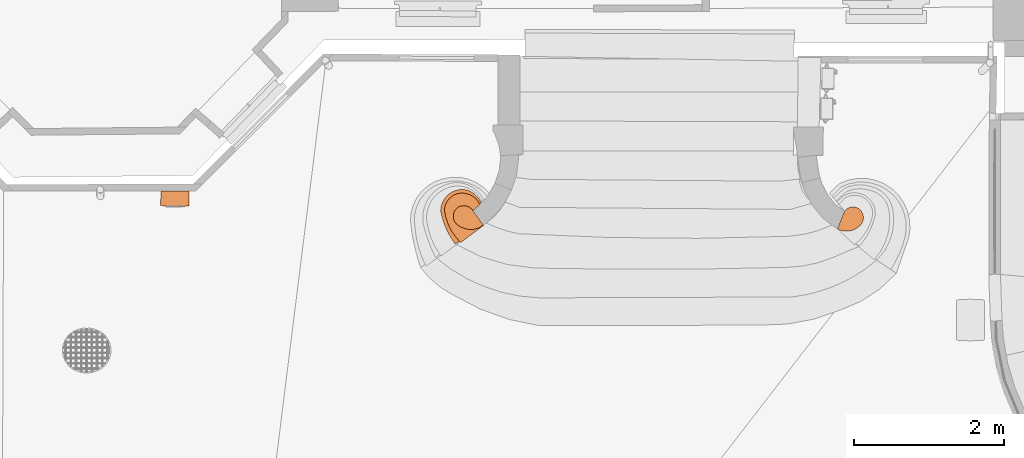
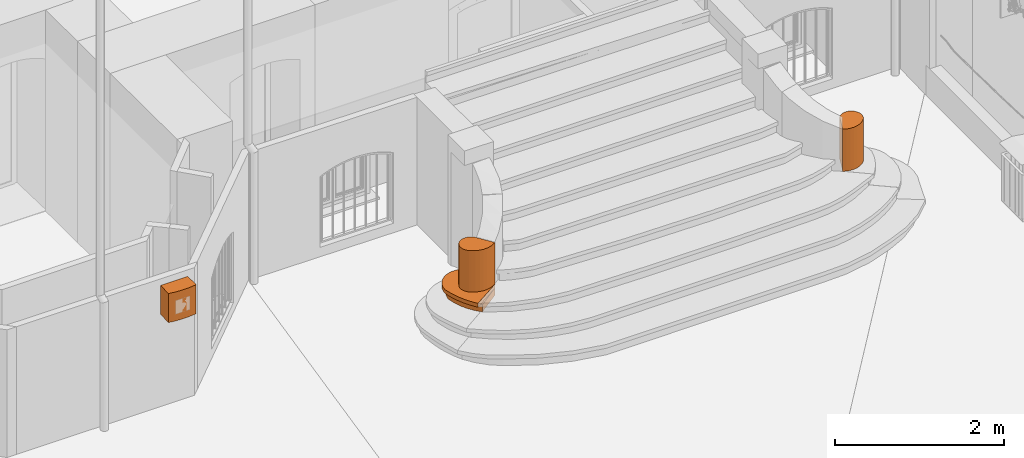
# One storey, part 132 of 133: 5 proxies.
"""IFC2X3 building model written with IfcOpenShell, lengths in centimetres."""

from ifc_helpers import new_model, entity, si_unit, converted_unit, direction, frame, origin, origin_with_axes, place, context, subcontext, project, spatial, faceted_brep, material, element, save


model = new_model("IFC2X3")

# Units and contexts
model_context = context("Model", 3, precision=0.0001, world=origin(), true_north=direction((0.225632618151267, 0.974212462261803, 0.0)))
body_context = subcontext(model_context, "Body", "Model", "MODEL_VIEW")
ifc_project = project(units=[si_unit("LENGTHUNIT", "METRE", prefix="CENTI"), si_unit("AREAUNIT", "SQUARE_METRE", prefix="CENTI"), si_unit("VOLUMEUNIT", "CUBIC_METRE", prefix="CENTI"), converted_unit("PLANEANGLEUNIT", "DEGREE", entity("IfcRatioMeasure", 0.0174532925), si_unit("PLANEANGLEUNIT", "RADIAN"), dimensions=[0, 0, 0, 0, 0, 0, 0])], contexts=[model_context])

# Site, building, storey
site_placement = place(None, origin_with_axes())
site = spatial("IfcSite", under=ifc_project, at=site_placement, Name="Default Site", CompositionType="ELEMENT")
building_placement = place(site_placement, origin_with_axes())
building = spatial("IfcBuilding", under=site, at=building_placement, Name="Default Building", CompositionType="ELEMENT")
storey_placement = place(building_placement, frame((0.0, 0.0, -291.400371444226), z_axis=(0.0, 0.0, 1.0), x_axis=(1.0, 0.0, 0.0)))
storey = spatial("IfcBuildingStorey", under=building, at=storey_placement, Name="Rez-de-Jardin", CompositionType="ELEMENT", Elevation=-291.400371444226)

# Proxies
ifc_material_1 = material(Name="Blanc")
proxy_1_placement = place(storey_placement, frame((-877.527270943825, -1151.41205586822, 240.0), z_axis=(0.0, 0.0, 1.0), x_axis=(1.0, 0.0, 0.0)))
element("IfcBuildingElementProxy", 1, at=proxy_1_placement, inside=storey, material=ifc_material_1, Name="Encombrement 959293", context=body_context, shape_type="Brep", body=[
    faceted_brep([(3.40053489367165e-05, 4.56753491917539e-05, 41.9999999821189), (-0.52277025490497, -19.487907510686, 41.9999999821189), (6.99389997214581, -20.6138154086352, 41.9999999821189), (14.5702702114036, -21.2193985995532, 41.9999999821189), (22.1702915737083, -21.3017960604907, 41.9999999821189), (29.7580105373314, -20.8606263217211, 41.9999999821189), (37.297282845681, -19.8979874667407, 41.9999999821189), (37.2687679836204, 0.0532607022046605, 41.9999999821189), (3.40053489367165e-05, 4.56753491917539e-05, 2.03847912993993e-06), (-0.522695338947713, -19.4879095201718, 2.03847912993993e-06), (-0.522695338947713, -19.4879095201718, 41.9999999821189), (-0.52277025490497, -19.487907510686, 2.03847912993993e-06), (6.99390187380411, -20.6138027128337, 2.03847912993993e-06), (6.99390187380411, -20.6138027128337, 41.9999999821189), (6.99389997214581, -20.6138154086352, 2.03847912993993e-06), (14.5702703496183, -21.2193968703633, 2.03847912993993e-06), (14.5702703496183, -21.2193968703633, 41.9999999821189), (14.5702702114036, -21.2193985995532, 2.03847912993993e-06), (22.170291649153, -21.3017891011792, 2.03847912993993e-06), (22.170291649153, -21.3017891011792, 41.9999999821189), (22.1702915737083, -21.3017960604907, 2.03847912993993e-06), (29.7580093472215, -20.8606058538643, 2.03847912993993e-06), (29.7580093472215, -20.8606058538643, 41.9999999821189), (29.7580105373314, -20.8606263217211, 2.03847912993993e-06), (37.2972788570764, -19.8979562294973, 2.03847912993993e-06), (37.2972788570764, -19.8979562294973, 41.9999999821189), (37.297282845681, -19.8979874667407, 2.03847912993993e-06), (37.2687912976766, 0.0532607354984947, 2.03847912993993e-06), (37.2687912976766, 0.0532607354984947, 41.9999999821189), (37.2687679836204, 0.0532607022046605, 2.03847912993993e-06), (3.40152061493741e-05, 3.87728215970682e-05, 2.03847912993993e-06), (3.40152061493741e-05, 3.87728215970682e-05, 41.9999999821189)], [[[0, 1, 2, 3, 4, 5, 6, 7]], [[8, 9, 10, 0]], [[11, 12, 13, 1]], [[14, 15, 16, 2]], [[17, 18, 19, 3]], [[20, 21, 22, 4]], [[23, 24, 25, 5]], [[26, 27, 28, 6]], [[29, 30, 31, 7]], [[29, 26, 23, 20, 17, 14, 11, 8]]]),
])
proxy_2_placement = place(storey_placement, frame((-446.30067125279, -1197.36928042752, 161.0), z_axis=(0.0, 0.0, 1.0), x_axis=(1.0, 0.0, 0.0)))
element("IfcBuildingElementProxy", 2, at=proxy_2_placement, inside=storey, material=ifc_material_1, Name="Encombrement 345563", context=body_context, shape_type="Brep", body=[
    faceted_brep([(2.16098452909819e-05, -8.9706702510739e-06, 60.0003718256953), (-13.8111852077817, 19.6311860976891, 60.0003718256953), (-15.6282685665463, 21.7656999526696, 60.0003718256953), (-17.8057454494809, 23.5310464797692, 60.0003718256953), (-20.2698968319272, 24.8673349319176, 60.0003718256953), (-22.9372285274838, 25.7294565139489, 60.0003718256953), (-25.7173798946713, 26.0880380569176, 60.0003718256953), (-28.5161755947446, 25.9310632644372, 60.0003718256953), (-31.2387727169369, 25.2638727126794, 60.0003718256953), (-33.7929986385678, 24.1089731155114, 60.0003718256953), (-35.9152577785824, 22.369852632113, 60.0003718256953), (-37.6750729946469, 20.2647119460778, 60.0003718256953), (-39.0104077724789, 17.867842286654, 60.0003718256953), (-39.8742936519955, 15.2636438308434, 60.0003718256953), (-40.2362130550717, 12.5437646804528, 60.0003718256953), (-40.0833867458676, 9.8042398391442, 60.0003718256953), (-39.4212983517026, 7.14158114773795, 60.0003718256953), (-38.2731698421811, 4.64953479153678, 60.0003718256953), (-36.6795323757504, 2.41602954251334, 60.0003718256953), (-34.6965573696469, 0.519648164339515, 60.0003718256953), (-32.3941014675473, -0.972566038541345, 60.0003718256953), (-28.0750535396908, -3.37162914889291, 60.0003718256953), (-23.397853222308, -4.9632162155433, 60.0003718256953), (-18.5119889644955, -5.6965917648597, 60.0003718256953), (-13.5736726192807, -5.54829540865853, 60.0003718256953), (-8.74059423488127, -4.52309551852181, 60.0003718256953), (-4.16734441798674, -2.65379849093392, 60.0003718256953), (2.16098452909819e-05, -8.9706702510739e-06, -1.07288089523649e-07), (-13.8111483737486, 19.6312120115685, -1.07288089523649e-07), (-13.8111483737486, 19.6312120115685, 60.0003718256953), (-13.8111852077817, 19.6311860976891, -1.07288089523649e-07), (-15.6282862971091, 21.7656848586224, -1.07288089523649e-07), (-15.6282862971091, 21.7656848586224, 60.0003718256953), (-15.6282685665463, 21.7656999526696, -1.07288089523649e-07), (-17.8057748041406, 23.5310102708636, -1.07288089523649e-07), (-17.8057748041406, 23.5310102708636, 60.0003718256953), (-17.8057454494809, 23.5310464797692, -1.07288089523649e-07), (-20.2698795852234, 24.8673667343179, -1.07288089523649e-07), (-20.2698795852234, 24.8673667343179, 60.0003718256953), (-20.2698968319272, 24.8673349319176, -1.07288089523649e-07), (-22.9372391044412, 25.72942378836, -1.07288089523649e-07), (-22.9372391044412, 25.72942378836, 60.0003718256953), (-22.9372285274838, 25.7294565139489, -1.07288089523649e-07), (-25.7173730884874, 26.0880908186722, -1.07288089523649e-07), (-25.7173730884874, 26.0880908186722, 60.0003718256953), (-25.7173798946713, 26.0880380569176, -1.07288089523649e-07), (-28.5161761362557, 25.9310729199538, -1.07288089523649e-07), (-28.5161761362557, 25.9310729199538, 60.0003718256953), (-28.5161755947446, 25.9310632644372, -1.07288089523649e-07), (-31.238760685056, 25.263823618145, -1.07288089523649e-07), (-31.238760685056, 25.263823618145, 60.0003718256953), (-31.2387727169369, 25.2638727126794, -1.07288089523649e-07), (-33.7929863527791, 24.1089459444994, -1.07288089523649e-07), (-33.7929863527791, 24.1089459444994, 60.0003718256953), (-33.7929986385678, 24.1089731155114, -1.07288089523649e-07), (-35.9152680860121, 22.3698652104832, -1.07288089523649e-07), (-35.9152680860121, 22.3698652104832, 60.0003718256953), (-35.9152577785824, 22.369852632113, -1.07288089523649e-07), (-37.6750995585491, 20.2647341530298, -1.07288089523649e-07), (-37.6750995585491, 20.2647341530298, 60.0003718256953), (-37.6750729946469, 20.2647119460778, -1.07288089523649e-07), (-39.0104201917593, 17.8678492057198, -1.07288089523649e-07), (-39.0104201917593, 17.8678492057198, 60.0003718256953), (-39.0104077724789, 17.867842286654, -1.07288089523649e-07), (-39.8742576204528, 15.2636318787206, -1.07288089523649e-07), (-39.8742576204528, 15.2636318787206, 60.0003718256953), (-39.8742936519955, 15.2636438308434, -1.07288089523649e-07), (-40.2362125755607, 12.543764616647, -1.07288089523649e-07), (-40.2362125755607, 12.543764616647, 60.0003718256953), (-40.2362130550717, 12.5437646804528, -1.07288089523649e-07), (-40.0834169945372, 9.80423815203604, -1.07288089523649e-07), (-40.0834169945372, 9.80423815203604, 60.0003718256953), (-40.0833867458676, 9.8042398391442, -1.07288089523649e-07), (-39.4212801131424, 7.141585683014, -1.07288089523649e-07), (-39.4212801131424, 7.141585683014, 60.0003718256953), (-39.4212983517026, 7.14158114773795, -1.07288089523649e-07), (-38.2731832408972, 4.64952861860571, -1.07288089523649e-07), (-38.2731832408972, 4.64952861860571, 60.0003718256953), (-38.2731698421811, 4.64953479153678, -1.07288089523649e-07), (-36.6795527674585, 2.41601499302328, -1.07288089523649e-07), (-36.6795527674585, 2.41601499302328, 60.0003718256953), (-36.6795323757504, 2.41602954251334, -1.07288089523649e-07), (-34.6965246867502, 0.519682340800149, -1.07288089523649e-07), (-34.6965246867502, 0.519682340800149, 60.0003718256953), (-34.6965573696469, 0.519648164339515, -1.07288089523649e-07), (-32.3941354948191, -0.972618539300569, -1.07288089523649e-07), (-32.3941354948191, -0.972618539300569, 60.0003718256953), (-32.3941014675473, -0.972566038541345, -1.07288089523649e-07), (-28.0750189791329, -3.37156692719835, -1.07288089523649e-07), (-28.0750189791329, -3.37156692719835, 60.0003718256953), (-28.0750535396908, -3.37162914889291, -1.07288089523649e-07), (-23.3978656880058, -4.96325284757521, -1.07288089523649e-07), (-23.3978656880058, -4.96325284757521, 60.0003718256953), (-23.397853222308, -4.9632162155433, -1.07288089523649e-07), (-18.5119924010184, -5.69661465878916, -1.07288089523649e-07), (-18.5119924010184, -5.69661465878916, 60.0003718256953), (-18.5119889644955, -5.6965917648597, -1.07288089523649e-07), (-13.5736717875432, -5.54832311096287, -1.07288089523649e-07), (-13.5736717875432, -5.54832311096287, 60.0003718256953), (-13.5736726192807, -5.54829540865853, -1.07288089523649e-07), (-8.74059515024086, -4.52309120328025, -1.07288089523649e-07), (-8.74059515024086, -4.52309120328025, 60.0003718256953), (-8.74059423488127, -4.52309551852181, -1.07288089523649e-07), (-4.16736310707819, -2.65375276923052, -1.07288089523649e-07), (-4.16736310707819, -2.65375276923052, 60.0003718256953), (-4.16734441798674, -2.65379849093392, -1.07288089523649e-07), (2.01633640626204e-05, -6.69919791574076e-06, -1.07288089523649e-07), (2.01633640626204e-05, -6.69919791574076e-06, 60.0003718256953)], [[[0, 1, 2, 3, 4, 5, 6, 7, 8, 9, 10, 11, 12, 13, 14, 15, 16, 17, 18, 19, 20, 21, 22, 23, 24, 25, 26]], [[27, 28, 29, 0]], [[30, 31, 32, 1]], [[33, 34, 35, 2]], [[36, 37, 38, 3]], [[39, 40, 41, 4]], [[42, 43, 44, 5]], [[45, 46, 47, 6]], [[48, 49, 50, 7]], [[51, 52, 53, 8]], [[54, 55, 56, 9]], [[57, 58, 59, 10]], [[60, 61, 62, 11]], [[63, 64, 65, 12]], [[66, 67, 68, 13]], [[69, 70, 71, 14]], [[72, 73, 74, 15]], [[75, 76, 77, 16]], [[78, 79, 80, 17]], [[81, 82, 83, 18]], [[84, 85, 86, 19]], [[87, 88, 89, 20]], [[90, 91, 92, 21]], [[93, 94, 95, 22]], [[96, 97, 98, 23]], [[99, 100, 101, 24]], [[102, 103, 104, 25]], [[105, 106, 107, 26]], [[105, 102, 99, 96, 93, 90, 87, 84, 81, 78, 75, 72, 69, 66, 63, 60, 57, 54, 51, 48, 45, 42, 39, 36, 33, 30, 27]]]),
])
proxy_3_placement = place(storey_placement, frame((27.3559945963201, -1202.28852462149, 161.0), z_axis=(0.0, 0.0, 1.0), x_axis=(1.0, 0.0, 0.0)))
element("IfcBuildingElementProxy", 3, at=proxy_3_placement, inside=storey, material=ifc_material_1, Name="Encombrement 336581", context=body_context, shape_type="Brep", body=[
    faceted_brep([(1.17794900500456e-06, -7.63559402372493e-06, 61.0874711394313), (4.4158559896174, -1.88036728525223, 61.0874711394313), (9.10512922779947, -2.90327835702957, 61.0874711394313), (13.9029216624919, -3.0326919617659, 61.0874711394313), (18.6405193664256, -2.2641258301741, 61.0874711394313), (23.1513362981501, -0.624568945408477, 61.0874711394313), (27.2767406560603, 1.8282813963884, 61.0874711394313), (30.8716755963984, 5.0082130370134, 61.0874711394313), (32.4761134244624, 7.05985259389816, 61.0874711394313), (33.6920541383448, 9.36297606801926, 61.0874711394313), (34.481082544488, 11.8451042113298, 61.0874711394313), (34.8182898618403, 14.4276542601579, 61.0874711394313), (34.6930128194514, 17.0290870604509, 61.0874711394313), (34.1092210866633, 19.5671958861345, 61.0874711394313), (33.0853444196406, 21.9619674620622, 61.0874711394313), (31.6537302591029, 24.1376800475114, 61.0874711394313), (29.8595827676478, 26.0255737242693, 61.0874711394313), (27.7960282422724, 27.5278015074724, 61.0874711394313), (25.4910629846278, 28.624145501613, 61.0874711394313), (23.0235797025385, 29.2770309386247, 61.0874711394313), (20.4780471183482, 29.4642372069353, 61.0874711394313), (17.9415863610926, 29.1793746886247, 61.0874711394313), (15.5010264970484, 28.4320754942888, 61.0874711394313), (13.2399004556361, 27.2479934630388, 61.0874711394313), (11.2356048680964, 25.6675643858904, 61.0874711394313), (9.55675064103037, 23.7449569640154, 61.0874711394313), (1.17794900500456e-06, -7.63559402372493e-06, -1.07288089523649e-07), (4.41585538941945, -1.88036869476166, -1.07288089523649e-07), (4.41585538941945, -1.88036869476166, 61.0874711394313), (4.4158559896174, -1.88036728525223, -1.07288089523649e-07), (9.10513552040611, -2.9032495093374, -1.07288089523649e-07), (9.10513552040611, -2.9032495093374, 61.0874711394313), (9.10512922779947, -2.90327835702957, -1.07288089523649e-07), (13.9029212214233, -3.03270831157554, -1.07288089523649e-07), (13.9029212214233, -3.03270831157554, 61.0874711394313), (13.9029216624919, -3.0326919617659, -1.07288089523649e-07), (18.6405184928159, -2.26412044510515, -1.07288089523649e-07), (18.6405184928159, -2.26412044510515, 61.0874711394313), (18.6405193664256, -2.2641258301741, -1.07288089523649e-07), (23.1513388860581, -0.624576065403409, -1.07288089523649e-07), (23.1513388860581, -0.624576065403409, 61.0874711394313), (23.1513362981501, -0.624568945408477, -1.07288089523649e-07), (27.2767329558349, 1.82829434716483, -1.07288089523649e-07), (27.2767329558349, 1.82829434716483, 61.0874711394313), (27.2767406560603, 1.8282813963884, -1.07288089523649e-07), (30.8716720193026, 5.00821708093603, -1.07288089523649e-07), (30.8716720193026, 5.00821708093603, 61.0874711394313), (30.8716755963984, 5.0082130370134, -1.07288089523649e-07), (32.4761449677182, 7.05982792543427, -1.07288089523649e-07), (32.4761449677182, 7.05982792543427, 61.0874711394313), (32.4761134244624, 7.05985259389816, -1.07288089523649e-07), (33.6920243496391, 9.36299179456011, -1.07288089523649e-07), (33.6920243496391, 9.36299179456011, 61.0874711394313), (33.6920541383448, 9.36297606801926, -1.07288089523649e-07), (34.4811055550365, 11.8450968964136, -1.07288089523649e-07), (34.4811055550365, 11.8450968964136, 61.0874711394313), (34.481082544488, 11.8451042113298, -1.07288089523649e-07), (34.8182893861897, 14.4276543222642, -1.07288089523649e-07), (34.8182893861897, 14.4276543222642, 61.0874711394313), (34.8182898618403, 14.4276542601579, -1.07288089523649e-07), (34.6930175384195, 17.0290872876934, -1.07288089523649e-07), (34.6930175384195, 17.0290872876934, 61.0874711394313), (34.6930128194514, 17.0290870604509, -1.07288089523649e-07), (34.1092356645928, 19.5671992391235, -1.07288089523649e-07), (34.1092356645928, 19.5671992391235, 61.0874711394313), (34.1092210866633, 19.5671958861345, -1.07288089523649e-07), (33.0853406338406, 21.9619658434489, -1.07288089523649e-07), (33.0853406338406, 21.9619658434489, 61.0874711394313), (33.0853444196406, 21.9619674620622, -1.07288089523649e-07), (31.6537194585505, 24.1376729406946, -1.07288089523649e-07), (31.6537194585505, 24.1376729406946, 61.0874711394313), (31.6537302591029, 24.1376800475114, -1.07288089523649e-07), (29.859595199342, 26.0255855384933, -1.07288089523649e-07), (29.859595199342, 26.0255855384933, 61.0874711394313), (29.8595827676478, 26.0255737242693, -1.07288089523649e-07), (27.7960058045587, 27.5277706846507, -1.07288089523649e-07), (27.7960058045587, 27.5277706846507, 61.0874711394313), (27.7960282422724, 27.5278015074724, -1.07288089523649e-07), (25.4910565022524, 28.6241318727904, -1.07288089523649e-07), (25.4910565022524, 28.6241318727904, 61.0874711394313), (25.4910629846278, 28.624145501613, -1.07288089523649e-07), (23.0235954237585, 29.2770903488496, -1.07288089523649e-07), (23.0235954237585, 29.2770903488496, 61.0874711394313), (23.0235797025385, 29.2770309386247, -1.07288089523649e-07), (20.4780480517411, 29.4642498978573, -1.07288089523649e-07), (20.4780480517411, 29.4642498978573, 61.0874711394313), (20.4780471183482, 29.4642372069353, -1.07288089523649e-07), (17.9415925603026, 29.1793195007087, -1.07288089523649e-07), (17.9415925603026, 29.1793195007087, 61.0874711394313), (17.9415863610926, 29.1793746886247, -1.07288089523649e-07), (15.5010274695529, 28.4320723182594, -1.07288089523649e-07), (15.5010274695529, 28.4320723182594, 61.0874711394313), (15.5010264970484, 28.4320754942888, -1.07288089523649e-07), (13.2399114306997, 27.2479725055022, -1.07288089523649e-07), (13.2399114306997, 27.2479725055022, 61.0874711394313), (13.2399004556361, 27.2479934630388, -1.07288089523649e-07), (11.2355832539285, 25.6675917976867, -1.07288089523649e-07), (11.2355832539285, 25.6675917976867, 61.0874711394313), (11.2356048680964, 25.6675643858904, -1.07288089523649e-07), (9.55672717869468, 23.7449774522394, -1.07288089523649e-07), (9.55672717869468, 23.7449774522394, 61.0874711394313), (9.55675064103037, 23.7449569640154, -1.07288089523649e-07), (1.41323866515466e-05, -1.28494202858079e-05, -1.07288089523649e-07), (1.41323866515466e-05, -1.28494202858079e-05, 61.0874711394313)], [[[0, 1, 2, 3, 4, 5, 6, 7, 8, 9, 10, 11, 12, 13, 14, 15, 16, 17, 18, 19, 20, 21, 22, 23, 24, 25]], [[26, 27, 28, 0]], [[29, 30, 31, 1]], [[32, 33, 34, 2]], [[35, 36, 37, 3]], [[38, 39, 40, 4]], [[41, 42, 43, 5]], [[44, 45, 46, 6]], [[47, 48, 49, 7]], [[50, 51, 52, 8]], [[53, 54, 55, 9]], [[56, 57, 58, 10]], [[59, 60, 61, 11]], [[62, 63, 64, 12]], [[65, 66, 67, 13]], [[68, 69, 70, 14]], [[71, 72, 73, 15]], [[74, 75, 76, 16]], [[77, 78, 79, 17]], [[80, 81, 82, 18]], [[83, 84, 85, 19]], [[86, 87, 88, 20]], [[89, 90, 91, 21]], [[92, 93, 94, 22]], [[95, 96, 97, 23]], [[98, 99, 100, 24]], [[101, 102, 103, 25]], [[101, 98, 95, 92, 89, 86, 83, 80, 77, 74, 71, 68, 65, 62, 59, 56, 53, 50, 47, 44, 41, 38, 35, 32, 29, 26]]]),
])
ifc_material_2 = material(Name="Béton (01)")
proxy_4_placement = place(storey_placement, frame((-449.003537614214, -1167.07382307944, 155.5), z_axis=(0.0, 0.0, 1.0), x_axis=(1.0, 0.0, 0.0)))
element("IfcBuildingElementProxy", 4, at=proxy_4_placement, inside=storey, material=ifc_material_2, Name="Encombrement 348060", context=body_context, shape_type="Brep", body=[
    faceted_brep([(-1.57762886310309e-05, 1.05795763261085e-06, 5.59150494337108), (-2.61503843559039, 4.19378386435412, 5.59150494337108), (-5.76831487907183, 7.99942122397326, 5.59150494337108), (-9.40295843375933, 11.3483439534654, 5.59150494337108), (-13.4534516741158, 14.1802798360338, 5.59150494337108), (-17.8467908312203, 16.4440165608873, 5.59150494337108), (-23.052088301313, 17.3998843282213, 5.59150494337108), (-28.3444562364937, 17.3868189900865, 5.59150494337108), (-33.5449853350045, 16.4052973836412, 5.59150494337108), (-38.4780087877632, 14.488316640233, 5.59150494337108), (-42.9767766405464, 11.7008219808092, 5.59150494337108), (-46.8892732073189, 8.1368456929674, 5.59150494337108), (-50.0833192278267, 3.91702757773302, 5.59150494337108), (-52.4509587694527, -0.816248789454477, 5.59150494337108), (-53.9121785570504, -5.90286149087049, 5.59150494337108), (-54.4176259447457, -11.1710537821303, 5.59150494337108), (-52.2565045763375, -20.7039822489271, 5.59150494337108), (-49.1824784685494, -29.9827565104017, 5.59150494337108), (-45.2244916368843, -38.9204014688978, 5.59150494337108), (-40.4196420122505, -47.4327076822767, 5.59150494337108), (-34.8131814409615, -55.4398526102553, 5.59150494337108), (2.9283365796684, -30.8037747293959, 5.59150494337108), (-10.9787621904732, -10.8344067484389, 5.59150494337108), (-1.57762886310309e-05, 1.05795763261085e-06, 5.13792064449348e-06), (-2.61506259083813, 4.19376880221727, 5.13792064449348e-06), (-2.61506259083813, 4.19376880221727, 5.59150494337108), (-2.61503843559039, 4.19378386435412, 5.13792064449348e-06), (-5.76829427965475, 7.99943829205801, 5.13792064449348e-06), (-5.76829427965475, 7.99943829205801, 5.59150494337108), (-5.76831487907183, 7.99942122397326, 5.13792064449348e-06), (-9.40293837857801, 11.3483657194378, 5.13792064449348e-06), (-9.40293837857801, 11.3483657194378, 5.59150494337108), (-9.40295843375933, 11.3483439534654, 5.13792064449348e-06), (-13.4534758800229, 14.1802452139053, 5.13792064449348e-06), (-13.4534758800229, 14.1802452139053, 5.59150494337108), (-13.4534516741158, 14.1802798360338, 5.13792064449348e-06), (-17.8467784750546, 16.4440405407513, 5.13792064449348e-06), (-17.8467784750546, 16.4440405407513, 5.59150494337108), (-17.8467908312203, 16.4440165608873, 5.13792064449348e-06), (-23.0520833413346, 17.3999113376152, 5.13792064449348e-06), (-23.0520833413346, 17.3999113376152, 5.59150494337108), (-23.052088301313, 17.3998843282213, 5.13792064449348e-06), (-28.3444562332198, 17.386817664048, 5.13792064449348e-06), (-28.3444562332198, 17.386817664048, 5.59150494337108), (-28.3444562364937, 17.3868189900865, 5.13792064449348e-06), (-33.5449728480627, 16.4052312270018, 5.13792064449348e-06), (-33.5449728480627, 16.4052312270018, 5.59150494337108), (-33.5449853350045, 16.4052973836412, 5.13792064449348e-06), (-38.4780161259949, 14.4883355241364, 5.13792064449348e-06), (-38.4780161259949, 14.4883355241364, 5.59150494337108), (-38.4780087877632, 14.488316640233, 5.13792064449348e-06), (-42.9767592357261, 11.7007938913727, 5.13792064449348e-06), (-42.9767592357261, 11.7007938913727, 5.59150494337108), (-42.9767766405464, 11.7008219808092, 5.13792064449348e-06), (-46.8893069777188, 8.13688276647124, 5.13792064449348e-06), (-46.8893069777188, 8.13688276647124, 5.59150494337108), (-46.8892732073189, 8.1368456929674, 5.13792064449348e-06), (-50.0832883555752, 3.91700421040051, 5.13792064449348e-06), (-50.0832883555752, 3.91700421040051, 5.59150494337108), (-50.0833192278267, 3.91702757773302, 5.13792064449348e-06), (-52.4509767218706, -0.816239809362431, 5.13792064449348e-06), (-52.4509767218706, -0.816239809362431, 5.59150494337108), (-52.4509587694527, -0.816248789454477, 5.13792064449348e-06), (-53.9121831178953, -5.9028601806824, 5.13792064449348e-06), (-53.9121831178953, -5.9028601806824, 5.59150494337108), (-53.9121785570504, -5.90286149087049, 5.13792064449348e-06), (-54.4176326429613, -11.1710531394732, 5.13792064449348e-06), (-54.4176326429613, -11.1710531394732, 5.59150494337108), (-54.4176259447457, -11.1710537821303, 5.13792064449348e-06), (-52.2564822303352, -20.7039771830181, 5.13792064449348e-06), (-52.2564822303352, -20.7039771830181, 5.59150494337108), (-52.2565045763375, -20.7039822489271, 5.13792064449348e-06), (-49.1825016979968, -29.9827642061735, 5.13792064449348e-06), (-49.1825016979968, -29.9827642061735, 5.59150494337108), (-49.1824784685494, -29.9827565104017, 5.13792064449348e-06), (-45.2244443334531, -38.9203805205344, 5.13792064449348e-06), (-45.2244443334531, -38.9203805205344, 5.59150494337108), (-45.2244916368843, -38.9204014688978, 5.13792064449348e-06), (-40.4196828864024, -47.4327307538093, 5.13792064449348e-06), (-40.4196828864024, -47.4327307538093, 5.59150494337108), (-40.4196420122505, -47.4327076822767, 5.13792064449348e-06), (-34.8131623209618, -55.4398392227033, 5.13792064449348e-06), (-34.8131623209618, -55.4398392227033, 5.59150494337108), (-34.8131814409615, -55.4398526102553, 5.13792064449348e-06), (2.92832791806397, -30.8037614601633, 5.13792064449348e-06), (2.92832791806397, -30.8037614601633, 5.59150494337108), (2.9283365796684, -30.8037747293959, 5.13792064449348e-06), (-10.9787356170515, -10.8343882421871, 5.13792064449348e-06), (-10.9787356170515, -10.8343882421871, 5.59150494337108), (-10.9787621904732, -10.8344067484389, 5.13792064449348e-06), (9.65890033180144e-06, -2.47162061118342e-05, 5.13792064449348e-06), (9.65890033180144e-06, -2.47162061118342e-05, 5.59150494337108)], [[[0, 1, 2, 3, 4, 5, 6, 7, 8, 9, 10, 11, 12, 13, 14, 15, 16, 17, 18, 19, 20, 21, 22]], [[23, 24, 25, 0]], [[26, 27, 28, 1]], [[29, 30, 31, 2]], [[32, 33, 34, 3]], [[35, 36, 37, 4]], [[38, 39, 40, 5]], [[41, 42, 43, 6]], [[44, 45, 46, 7]], [[47, 48, 49, 8]], [[50, 51, 52, 9]], [[53, 54, 55, 10]], [[56, 57, 58, 11]], [[59, 60, 61, 12]], [[62, 63, 64, 13]], [[65, 66, 67, 14]], [[68, 69, 70, 15]], [[71, 72, 73, 16]], [[74, 75, 76, 17]], [[77, 78, 79, 18]], [[80, 81, 82, 19]], [[83, 84, 85, 20]], [[86, 87, 88, 21]], [[89, 90, 91, 22]], [[89, 86, 83, 80, 77, 74, 71, 68, 65, 62, 59, 56, 53, 50, 47, 44, 41, 38, 35, 32, 29, 26, 23]]]),
])
proxy_5_placement = place(storey_placement, frame((-451.278147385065, -1169.14033619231, 145.0), z_axis=(0.0, 0.0, 1.0), x_axis=(1.0, 0.0, 0.0)))
element("IfcBuildingElementProxy", 5, at=proxy_5_placement, inside=storey, material=ifc_material_2, Name="Encombrement 348059", context=body_context, shape_type="Brep", body=[
    faceted_brep([(-1.4617498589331e-05, -2.70539413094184e-06, 10.5915101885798), (-2.22727329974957, 3.91874042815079, 10.5915101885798), (-5.12496502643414, 7.37142292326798, 10.5915101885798), (-8.5980084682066, 10.2446529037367, 10.5915101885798), (-12.5323918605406, 12.4442073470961, 10.5915101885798), (-16.7990830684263, 13.8977977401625, 10.5915101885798), (-21.0724499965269, 14.7001239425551, 10.5915101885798), (-25.4204896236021, 14.711281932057, 10.5915101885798), (-29.6979096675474, 13.9307948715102, 10.5915101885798), (-33.761897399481, 12.3849841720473, 10.5915101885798), (-37.4766019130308, 10.1252528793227, 10.5915101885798), (-40.718045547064, 7.22722736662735, 10.5915101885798), (-43.3778908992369, 3.78770557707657, 10.5915101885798), (-45.3673032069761, -0.0784901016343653, 10.5915101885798), (-46.6198590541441, -4.24223216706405, 10.5915101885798), (-47.0936921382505, -8.56437953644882, 10.5915101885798), (-45.0933602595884, -18.1509998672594, 10.5915101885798), (-41.8393758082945, -27.3876217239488, 10.5915101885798), (-37.3891976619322, -36.1111667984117, 10.5915101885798), (-31.8214085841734, -44.1675213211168, 10.5915101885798), (-25.2344277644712, -51.4143017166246, 10.5915101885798), (5.24877040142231, -28.513815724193, 10.5915101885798), (-8.65832836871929, -8.54444774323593, 10.5915101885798), (-1.4617498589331e-05, -2.70539413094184e-06, 3.23057203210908e-06), (-2.22724740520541, 3.91875514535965, 3.23057203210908e-06), (-2.22724740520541, 3.91875514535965, 10.5915101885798), (-2.22727329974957, 3.91874042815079, 3.23057203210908e-06), (-5.1249731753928, 7.37141608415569, 3.23057203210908e-06), (-5.1249731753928, 7.37141608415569, 10.5915101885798), (-5.12496502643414, 7.37142292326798, 3.23057203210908e-06), (-8.5980028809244, 10.2446596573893, 3.23057203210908e-06), (-8.5980028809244, 10.2446596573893, 10.5915101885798), (-8.5980084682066, 10.2446529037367, 3.23057203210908e-06), (-12.532413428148, 12.4441687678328, 3.23057203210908e-06), (-12.532413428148, 12.4441687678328, 10.5915101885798), (-12.5323918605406, 12.4442073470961, 3.23057203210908e-06), (-16.7990715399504, 13.8978315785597, 3.23057203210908e-06), (-16.7990715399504, 13.8978315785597, 10.5915101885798), (-16.7990830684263, 13.8977977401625, 3.23057203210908e-06), (-21.0724590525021, 14.7000757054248, 3.23057203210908e-06), (-21.0724590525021, 14.7000757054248, 10.5915101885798), (-21.0724499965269, 14.7001239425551, 3.23057203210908e-06), (-25.4204897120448, 14.7112473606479, 3.23057203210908e-06), (-25.4204897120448, 14.7112473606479, 10.5915101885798), (-25.4204896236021, 14.711281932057, 3.23057203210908e-06), (-29.6979247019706, 13.9308772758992, 3.23057203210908e-06), (-29.6979247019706, 13.9308772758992, 10.5915101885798), (-29.6979096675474, 13.9307948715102, 3.23057203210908e-06), (-33.7618761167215, 12.3849282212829, 3.23057203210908e-06), (-33.7618761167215, 12.3849282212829, 10.5915101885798), (-33.761897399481, 12.3849841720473, 3.23057203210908e-06), (-37.4766304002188, 10.1252997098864, 3.23057203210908e-06), (-37.4766304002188, 10.1252997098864, 10.5915101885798), (-37.4766019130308, 10.1252528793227, 3.23057203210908e-06), (-40.7180383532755, 7.22721932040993, 3.23057203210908e-06), (-40.7180383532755, 7.22721932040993, 10.5915101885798), (-40.718045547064, 7.22722736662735, 3.23057203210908e-06), (-43.3778727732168, 3.7876915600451, 3.23057203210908e-06), (-43.3778727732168, 3.7876915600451, 10.5915101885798), (-43.3778908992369, 3.78770557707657, 3.23057203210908e-06), (-45.3673060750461, -0.0784886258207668, 3.23057203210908e-06), (-45.3673060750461, -0.0784886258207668, 10.5915101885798), (-45.3673032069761, -0.0784901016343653, 3.23057203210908e-06), (-46.6198577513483, -4.24223255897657, 3.23057203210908e-06), (-46.6198577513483, -4.24223255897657, 10.5915101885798), (-46.6198590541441, -4.24223216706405, 3.23057203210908e-06), (-47.0936899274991, -8.56437977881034, 3.23057203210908e-06), (-47.0936899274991, -8.56437977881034, 10.5915101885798), (-47.0936921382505, -8.56437953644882, 3.23057203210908e-06), (-45.0933641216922, -18.1510006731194, 3.23057203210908e-06), (-45.0933641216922, -18.1510006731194, 10.5915101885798), (-45.0933602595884, -18.1509998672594, 3.23057203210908e-06), (-41.8393746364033, -27.3876213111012, 3.23057203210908e-06), (-41.8393746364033, -27.3876213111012, 10.5915101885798), (-41.8393758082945, -27.3876217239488, 3.23057203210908e-06), (-37.3891869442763, -36.111161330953, 3.23057203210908e-06), (-37.3891869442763, -36.111161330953, 10.5915101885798), (-37.3891976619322, -36.1111667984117, 3.23057203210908e-06), (-31.8214081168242, -44.1675209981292, 3.23057203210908e-06), (-31.8214081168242, -44.1675209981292, 10.5915101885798), (-31.8214085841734, -44.1675213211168, 3.23057203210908e-06), (-25.234426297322, -51.4143003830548, 3.23057203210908e-06), (-25.234426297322, -51.4143003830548, 10.5915101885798), (-25.2344277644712, -51.4143017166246, 3.23057203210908e-06), (5.24877322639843, -28.5138194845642, 3.23057203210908e-06), (5.24877322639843, -28.5138194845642, 10.5915101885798), (5.24877040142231, -28.513815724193, 3.23057203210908e-06), (-8.65830179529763, -8.54442923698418, 3.23057203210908e-06), (-8.65830179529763, -8.54442923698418, 10.5915101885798), (-8.65832836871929, -8.54444774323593, 3.23057203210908e-06), (-1.30822010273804e-05, -4.26115260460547e-06, 3.23057203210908e-06), (-1.30822010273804e-05, -4.26115260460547e-06, 10.5915101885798)], [[[0, 1, 2, 3, 4, 5, 6, 7, 8, 9, 10, 11, 12, 13, 14, 15, 16, 17, 18, 19, 20, 21, 22]], [[23, 24, 25, 0]], [[26, 27, 28, 1]], [[29, 30, 31, 2]], [[32, 33, 34, 3]], [[35, 36, 37, 4]], [[38, 39, 40, 5]], [[41, 42, 43, 6]], [[44, 45, 46, 7]], [[47, 48, 49, 8]], [[50, 51, 52, 9]], [[53, 54, 55, 10]], [[56, 57, 58, 11]], [[59, 60, 61, 12]], [[62, 63, 64, 13]], [[65, 66, 67, 14]], [[68, 69, 70, 15]], [[71, 72, 73, 16]], [[74, 75, 76, 17]], [[77, 78, 79, 18]], [[80, 81, 82, 19]], [[83, 84, 85, 20]], [[86, 87, 88, 21]], [[89, 90, 91, 22]], [[89, 86, 83, 80, 77, 74, 71, 68, 65, 62, 59, 56, 53, 50, 47, 44, 41, 38, 35, 32, 29, 26, 23]]]),
])

save(model, "model.ifc")
